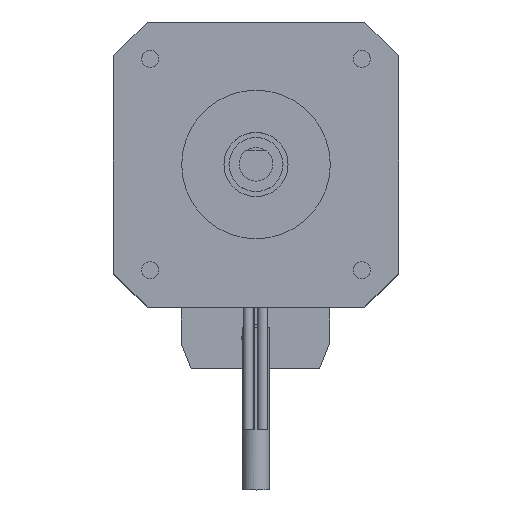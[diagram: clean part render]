
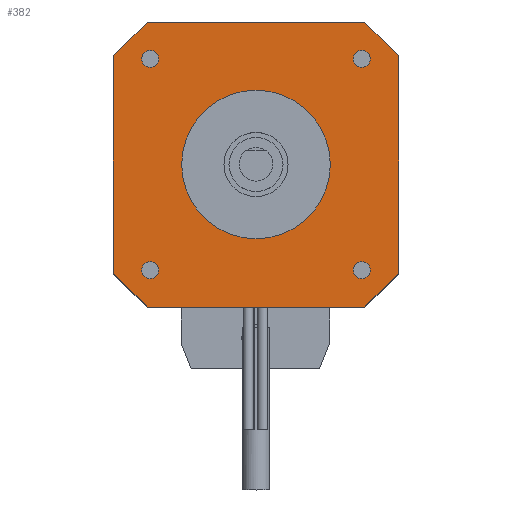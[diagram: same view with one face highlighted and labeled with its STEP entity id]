
A CAD part, top view. The second image highlights one B-rep face of the part: STEP entity #382.
In plain terms, the highlighted planar face has unit normal (0, 0, 1).
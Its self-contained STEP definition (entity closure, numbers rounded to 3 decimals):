
#205=FACE_BOUND('',#708,.T.);
#206=FACE_BOUND('',#709,.T.);
#207=FACE_BOUND('',#710,.T.);
#208=FACE_BOUND('',#711,.T.);
#209=FACE_BOUND('',#712,.T.);
#210=FACE_BOUND('',#713,.T.);
#311=CIRCLE('',#2271,1.25);
#312=CIRCLE('',#2272,1.25);
#313=CIRCLE('',#2273,1.25);
#314=CIRCLE('',#2274,1.25);
#315=CIRCLE('',#2275,11.);
#382=ADVANCED_FACE('',(#205,#206,#207,#208,#209,#210),#518,.F.);
#518=PLANE('',#2276);
#708=EDGE_LOOP('',(#925));
#709=EDGE_LOOP('',(#926));
#710=EDGE_LOOP('',(#927));
#711=EDGE_LOOP('',(#928));
#712=EDGE_LOOP('',(#929));
#713=EDGE_LOOP('',(#930,#931,#932,#933,#934,#935,#936,#937));
#925=ORIENTED_EDGE('',*,*,#1648,.F.);
#926=ORIENTED_EDGE('',*,*,#1649,.F.);
#927=ORIENTED_EDGE('',*,*,#1650,.F.);
#928=ORIENTED_EDGE('',*,*,#1651,.F.);
#929=ORIENTED_EDGE('',*,*,#1652,.F.);
#930=ORIENTED_EDGE('',*,*,#1633,.F.);
#931=ORIENTED_EDGE('',*,*,#1653,.T.);
#932=ORIENTED_EDGE('',*,*,#1627,.F.);
#933=ORIENTED_EDGE('',*,*,#1654,.T.);
#934=ORIENTED_EDGE('',*,*,#1625,.F.);
#935=ORIENTED_EDGE('',*,*,#1655,.T.);
#936=ORIENTED_EDGE('',*,*,#1637,.F.);
#937=ORIENTED_EDGE('',*,*,#1656,.T.);
#1432=VERTEX_POINT('',#3098);
#1433=VERTEX_POINT('',#3100);
#1434=VERTEX_POINT('',#3104);
#1435=VERTEX_POINT('',#3105);
#1440=VERTEX_POINT('',#3116);
#1441=VERTEX_POINT('',#3118);
#1444=VERTEX_POINT('',#3125);
#1445=VERTEX_POINT('',#3127);
#1451=VERTEX_POINT('',#3146);
#1452=VERTEX_POINT('',#3148);
#1453=VERTEX_POINT('',#3150);
#1454=VERTEX_POINT('',#3152);
#1455=VERTEX_POINT('',#3154);
#1625=EDGE_CURVE('',#1432,#1433,#1892,.T.);
#1627=EDGE_CURVE('',#1434,#1435,#1894,.T.);
#1633=EDGE_CURVE('',#1440,#1441,#1900,.T.);
#1637=EDGE_CURVE('',#1444,#1445,#1904,.T.);
#1648=EDGE_CURVE('',#1451,#1451,#311,.T.);
#1649=EDGE_CURVE('',#1452,#1452,#312,.T.);
#1650=EDGE_CURVE('',#1453,#1453,#313,.T.);
#1651=EDGE_CURVE('',#1454,#1454,#314,.T.);
#1652=EDGE_CURVE('',#1455,#1455,#315,.T.);
#1653=EDGE_CURVE('',#1440,#1435,#1910,.T.);
#1654=EDGE_CURVE('',#1434,#1433,#1911,.T.);
#1655=EDGE_CURVE('',#1432,#1445,#1912,.T.);
#1656=EDGE_CURVE('',#1444,#1441,#1913,.T.);
#1892=LINE('',#3099,#2077);
#1894=LINE('',#3103,#2079);
#1900=LINE('',#3117,#2085);
#1904=LINE('',#3126,#2089);
#1910=LINE('',#3155,#2095);
#1911=LINE('',#3156,#2096);
#1912=LINE('',#3157,#2097);
#1913=LINE('',#3158,#2098);
#2077=VECTOR('',#2480,1.);
#2079=VECTOR('',#2484,1.);
#2085=VECTOR('',#2492,1.);
#2089=VECTOR('',#2498,1.);
#2095=VECTOR('',#2528,1.);
#2096=VECTOR('',#2529,1.);
#2097=VECTOR('',#2530,1.);
#2098=VECTOR('',#2531,1.);
#2271=AXIS2_PLACEMENT_3D('',#3145,#2518,#2519);
#2272=AXIS2_PLACEMENT_3D('',#3147,#2520,#2521);
#2273=AXIS2_PLACEMENT_3D('',#3149,#2522,#2523);
#2274=AXIS2_PLACEMENT_3D('',#3151,#2524,#2525);
#2275=AXIS2_PLACEMENT_3D('',#3153,#2526,#2527);
#2276=AXIS2_PLACEMENT_3D('',#3159,#2532,#2533);
#2480=DIRECTION('',(-1.,0.,0.));
#2484=DIRECTION('',(0.,1.,0.));
#2492=DIRECTION('',(1.,0.,0.));
#2498=DIRECTION('',(0.,-1.,0.));
#2518=DIRECTION('',(0.,0.,1.));
#2519=DIRECTION('',(0.,1.,0.));
#2520=DIRECTION('',(0.,0.,1.));
#2521=DIRECTION('',(1.,0.,0.));
#2522=DIRECTION('',(0.,0.,1.));
#2523=DIRECTION('',(-1.,0.,0.));
#2524=DIRECTION('',(0.,0.,1.));
#2525=DIRECTION('',(0.,-1.,0.));
#2526=DIRECTION('',(0.,0.,1.));
#2527=DIRECTION('',(1.,0.,0.));
#2528=DIRECTION('',(-0.707,-0.707,0.));
#2529=DIRECTION('',(0.707,-0.707,0.));
#2530=DIRECTION('',(0.707,0.707,0.));
#2531=DIRECTION('',(-0.707,0.707,0.));
#2532=DIRECTION('',(0.,0.,-1.));
#2533=DIRECTION('',(-1.,0.,0.));
#3098=CARTESIAN_POINT('',(12.2,-15.2,0.));
#3099=CARTESIAN_POINT('',(17.2,-15.2,0.));
#3100=CARTESIAN_POINT('',(-20.,-15.2,0.));
#3103=CARTESIAN_POINT('',(-25.,-15.2,0.));
#3104=CARTESIAN_POINT('',(-25.,-10.2,0.));
#3105=CARTESIAN_POINT('',(-25.,22.,0.));
#3116=CARTESIAN_POINT('',(-20.,27.,0.));
#3117=CARTESIAN_POINT('',(-25.,27.,0.));
#3118=CARTESIAN_POINT('',(12.2,27.,0.));
#3125=CARTESIAN_POINT('',(17.2,22.,0.));
#3126=CARTESIAN_POINT('',(17.2,27.,0.));
#3127=CARTESIAN_POINT('',(17.2,-10.2,0.));
#3145=CARTESIAN_POINT('',(-19.55,-9.75,0.));
#3146=CARTESIAN_POINT('',(-19.55,-8.5,0.));
#3147=CARTESIAN_POINT('',(-19.55,21.55,0.));
#3148=CARTESIAN_POINT('',(-18.3,21.55,0.));
#3149=CARTESIAN_POINT('',(11.75,-9.75,0.));
#3150=CARTESIAN_POINT('',(10.5,-9.75,0.));
#3151=CARTESIAN_POINT('',(11.75,21.55,0.));
#3152=CARTESIAN_POINT('',(11.75,20.3,0.));
#3153=CARTESIAN_POINT('',(-3.9,5.9,0.));
#3154=CARTESIAN_POINT('',(7.1,5.9,0.));
#3155=CARTESIAN_POINT('',(-20.,27.,0.));
#3156=CARTESIAN_POINT('',(-25.,-10.2,0.));
#3157=CARTESIAN_POINT('',(12.2,-15.2,0.));
#3158=CARTESIAN_POINT('',(17.2,22.,0.));
#3159=CARTESIAN_POINT('',(0.,0.,0.));
